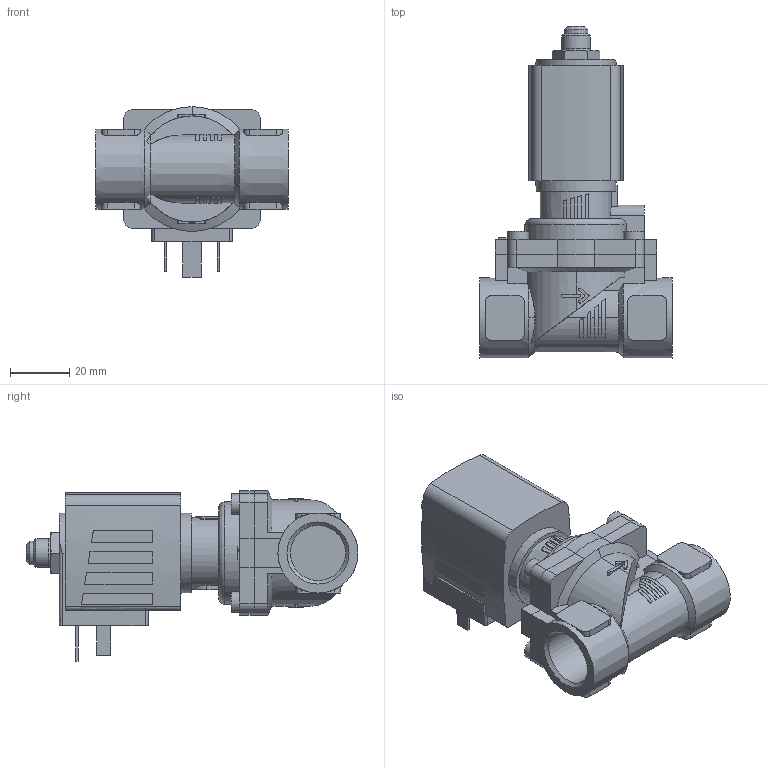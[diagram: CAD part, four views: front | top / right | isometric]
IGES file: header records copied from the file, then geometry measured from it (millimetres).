
Start section: Data from Parasolid IGES Translator 26.0.171, Copyright(c) 2006 Siemens PLM Software. All Rights Reserved.
Global section: file name: 6281-301919-2_2-Way_Solenoid_Valve__Servo-assisted__General_Purpose.igs; native system: By Siemens PLM Incorporated; preprocessor: XPlus GENERIC/IGES 26.0.171; author: Noname; organization: Noname; date: 20240520.102233; units: millimetre
Bounding box: 65 x 112 x 57.5 mm (x, y, z)
Surface area: 29468.1 mm2 (no closed solid volume)
Topology: 0 solids, 0 shells, 372 faces, 1962 edges, 1947 vertices
Faces by surface type: extrusion 238, revolution 134
